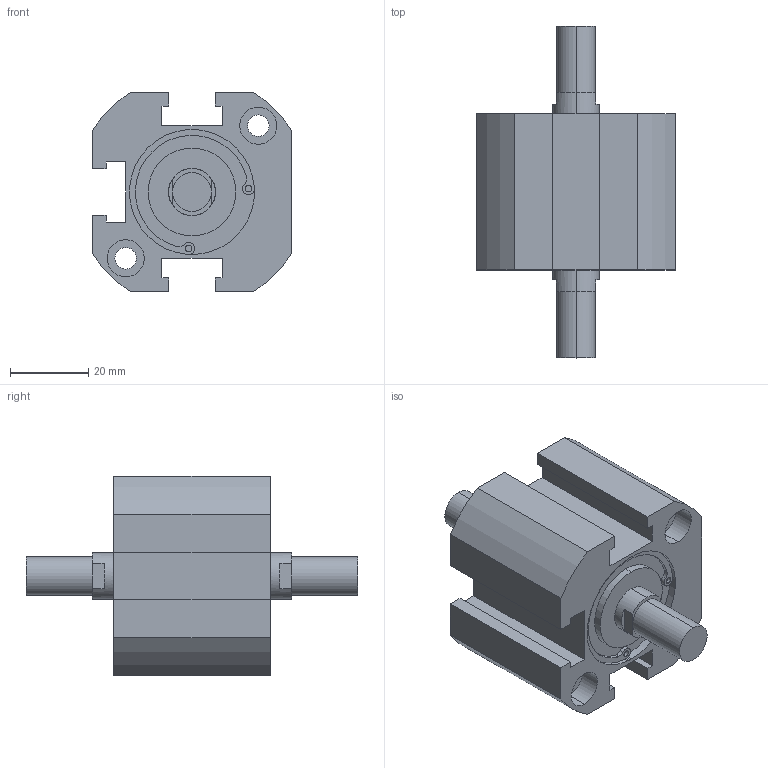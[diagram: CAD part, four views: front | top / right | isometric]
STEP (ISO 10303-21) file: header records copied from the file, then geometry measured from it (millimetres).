
FILE_DESCRIPTION (( 'STEP AP203' ), '1' );
FILE_NAME ('XG#M7-32-10.STEP', '2016-05-24T02:23:27', ( '' ), ( '' ), 'SwSTEP 2.0', 'SolidWorks 2014', '' );
FILE_SCHEMA (( 'CONFIG_CONTROL_DESIGN' ));
Length unit declared in the file: millimetre
Products named in the file (1): XG#M7-32-10
Bounding box: 51 x 85 x 51 mm (x, y, z)
Volume: 81352.9 mm3; surface area: 18718.8 mm2
Topology: 1 solids, 1 shells, 133 faces, 333 edges, 216 vertices
Faces by surface type: cylinder 65, plane 60, cone 8
Entity records: 4078 total; most frequent: DIRECTION 747, CARTESIAN_POINT 679, ORIENTED_EDGE 658, EDGE_CURVE 329, AXIS2_PLACEMENT_3D 284, VERTEX_POINT 216, VECTOR 179, LINE 179
